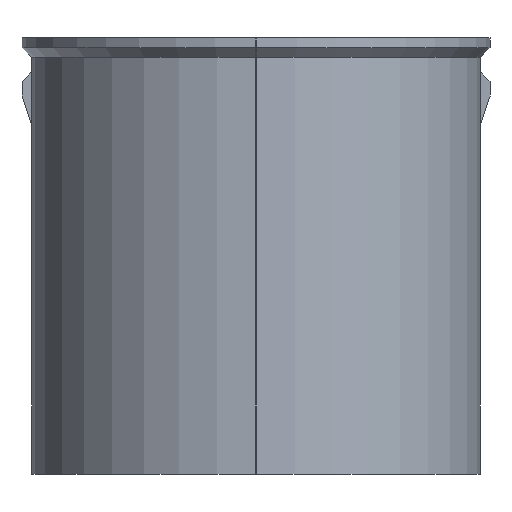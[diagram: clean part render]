
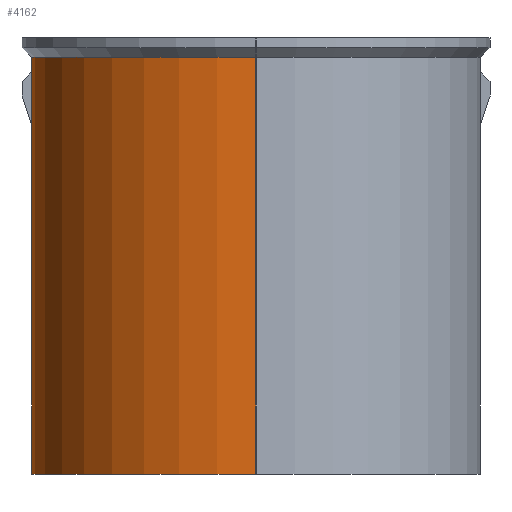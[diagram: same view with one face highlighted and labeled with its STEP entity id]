
A CAD part, left-side view. The second image highlights one B-rep face of the part: STEP entity #4162.
In plain terms, the highlighted cylindrical face has radius 23.125 mm (diameter 46.25 mm), a partial arc.
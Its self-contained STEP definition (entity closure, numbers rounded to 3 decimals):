
#622 = PLANE('',#623);
#623 = AXIS2_PLACEMENT_3D('',#624,#625,#626);
#624 = CARTESIAN_POINT('',(117.015,23.135,55.));
#625 = DIRECTION('',(0.,1.,0.));
#626 = DIRECTION('',(0.,0.,1.));
#1581 = CONICAL_SURFACE('',#1582,23.125,0.785);
#1582 = AXIS2_PLACEMENT_3D('',#1583,#1584,#1585);
#1583 = CARTESIAN_POINT('',(140.14,0.01,98.));
#1584 = DIRECTION('',(0.,0.,1.));
#1585 = DIRECTION('',(0.,-1.,0.));
#1729 = VERTEX_POINT('',#1730);
#1730 = CARTESIAN_POINT('',(140.14,23.135,98.));
#1775 = VERTEX_POINT('',#1776);
#1776 = CARTESIAN_POINT('',(140.14,23.135,55.));
#1792 = PLANE('',#1793);
#1793 = AXIS2_PLACEMENT_3D('',#1794,#1795,#1796);
#1794 = CARTESIAN_POINT('',(117.015,-23.135,55.));
#1795 = DIRECTION('',(0.,0.,1.));
#1796 = DIRECTION('',(1.,0.,0.));
#1804 = EDGE_CURVE('',#1775,#1729,#1805,.T.);
#1805 = SURFACE_CURVE('',#1806,(#1810,#1817),.PCURVE_S1.);
#1806 = LINE('',#1807,#1808);
#1807 = CARTESIAN_POINT('',(140.14,23.135,55.));
#1808 = VECTOR('',#1809,1.);
#1809 = DIRECTION('',(0.,0.,1.));
#1810 = PCURVE('',#622,#1811);
#1811 = DEFINITIONAL_REPRESENTATION('',(#1812),#1816);
#1812 = LINE('',#1813,#1814);
#1813 = CARTESIAN_POINT('',(0.,23.125));
#1814 = VECTOR('',#1815,1.);
#1815 = DIRECTION('',(1.,0.));
#1816 = ( GEOMETRIC_REPRESENTATION_CONTEXT(2) 
PARAMETRIC_REPRESENTATION_CONTEXT() REPRESENTATION_CONTEXT('2D SPACE',''
  ) );
#1817 = PCURVE('',#1818,#1823);
#1818 = CYLINDRICAL_SURFACE('',#1819,23.125);
#1819 = AXIS2_PLACEMENT_3D('',#1820,#1821,#1822);
#1820 = CARTESIAN_POINT('',(140.14,0.01,55.));
#1821 = DIRECTION('',(0.,0.,1.));
#1822 = DIRECTION('',(-1.,-0.,0.));
#1823 = DEFINITIONAL_REPRESENTATION('',(#1824),#1828);
#1824 = LINE('',#1825,#1826);
#1825 = CARTESIAN_POINT('',(-1.571,0.));
#1826 = VECTOR('',#1827,1.);
#1827 = DIRECTION('',(-0.,1.));
#1828 = ( GEOMETRIC_REPRESENTATION_CONTEXT(2) 
PARAMETRIC_REPRESENTATION_CONTEXT() REPRESENTATION_CONTEXT('2D SPACE',''
  ) );
#3710 = VERTEX_POINT('',#3711);
#3711 = CARTESIAN_POINT('',(117.015,0.01,98.));
#3725 = PLANE('',#3726);
#3726 = AXIS2_PLACEMENT_3D('',#3727,#3728,#3729);
#3727 = CARTESIAN_POINT('',(117.015,-23.135,55.));
#3728 = DIRECTION('',(1.,0.,0.));
#3729 = DIRECTION('',(0.,0.,1.));
#3777 = EDGE_CURVE('',#3710,#1729,#3778,.T.);
#3778 = SURFACE_CURVE('',#3779,(#3784,#3791),.PCURVE_S1.);
#3779 = CIRCLE('',#3780,23.125);
#3780 = AXIS2_PLACEMENT_3D('',#3781,#3782,#3783);
#3781 = CARTESIAN_POINT('',(140.14,0.01,98.));
#3782 = DIRECTION('',(-0.,-0.,-1.));
#3783 = DIRECTION('',(0.,-1.,0.));
#3784 = PCURVE('',#1581,#3785);
#3785 = DEFINITIONAL_REPRESENTATION('',(#3786),#3790);
#3786 = LINE('',#3787,#3788);
#3787 = CARTESIAN_POINT('',(6.283,0.));
#3788 = VECTOR('',#3789,1.);
#3789 = DIRECTION('',(-1.,0.));
#3790 = ( GEOMETRIC_REPRESENTATION_CONTEXT(2) 
PARAMETRIC_REPRESENTATION_CONTEXT() REPRESENTATION_CONTEXT('2D SPACE',''
  ) );
#3791 = PCURVE('',#1818,#3792);
#3792 = DEFINITIONAL_REPRESENTATION('',(#3793),#3797);
#3793 = LINE('',#3794,#3795);
#3794 = CARTESIAN_POINT('',(1.571,43.));
#3795 = VECTOR('',#3796,1.);
#3796 = DIRECTION('',(-1.,0.));
#3797 = ( GEOMETRIC_REPRESENTATION_CONTEXT(2) 
PARAMETRIC_REPRESENTATION_CONTEXT() REPRESENTATION_CONTEXT('2D SPACE',''
  ) );
#3836 = VERTEX_POINT('',#3837);
#3837 = CARTESIAN_POINT('',(117.015,0.01,55.));
#3960 = EDGE_CURVE('',#3836,#1775,#3961,.T.);
#3961 = SURFACE_CURVE('',#3962,(#3967,#3978),.PCURVE_S1.);
#3962 = CIRCLE('',#3963,23.125);
#3963 = AXIS2_PLACEMENT_3D('',#3964,#3965,#3966);
#3964 = CARTESIAN_POINT('',(140.14,0.01,55.));
#3965 = DIRECTION('',(-0.,-0.,-1.));
#3966 = DIRECTION('',(0.,-1.,0.));
#3967 = PCURVE('',#1792,#3968);
#3968 = DEFINITIONAL_REPRESENTATION('',(#3969),#3977);
#3969 = ( BOUNDED_CURVE() B_SPLINE_CURVE(2,(#3970,#3971,#3972,#3973,
#3974,#3975,#3976),.UNSPECIFIED.,.T.,.F.) B_SPLINE_CURVE_WITH_KNOTS((1,2
    ,2,2,2,1),(-2.094,0.,2.094,4.189,
6.283,8.378),.UNSPECIFIED.) CURVE() 
GEOMETRIC_REPRESENTATION_ITEM() RATIONAL_B_SPLINE_CURVE((1.,0.5,1.,0.5,
1.,0.5,1.)) REPRESENTATION_ITEM('') );
#3970 = CARTESIAN_POINT('',(23.125,0.02));
#3971 = CARTESIAN_POINT('',(-16.929,0.02));
#3972 = CARTESIAN_POINT('',(3.098,34.708));
#3973 = CARTESIAN_POINT('',(23.125,69.395));
#3974 = CARTESIAN_POINT('',(43.152,34.708));
#3975 = CARTESIAN_POINT('',(63.179,0.02));
#3976 = CARTESIAN_POINT('',(23.125,0.02));
#3977 = ( GEOMETRIC_REPRESENTATION_CONTEXT(2) 
PARAMETRIC_REPRESENTATION_CONTEXT() REPRESENTATION_CONTEXT('2D SPACE',''
  ) );
#3978 = PCURVE('',#1818,#3979);
#3979 = DEFINITIONAL_REPRESENTATION('',(#3980),#3984);
#3980 = LINE('',#3981,#3982);
#3981 = CARTESIAN_POINT('',(1.571,-0.));
#3982 = VECTOR('',#3983,1.);
#3983 = DIRECTION('',(-1.,0.));
#3984 = ( GEOMETRIC_REPRESENTATION_CONTEXT(2) 
PARAMETRIC_REPRESENTATION_CONTEXT() REPRESENTATION_CONTEXT('2D SPACE',''
  ) );
#4162 = ADVANCED_FACE('',(#4163),#1818,.T.);
#4163 = FACE_BOUND('',#4164,.F.);
#4164 = EDGE_LOOP('',(#4165,#4186,#4187,#4188));
#4165 = ORIENTED_EDGE('',*,*,#4166,.F.);
#4166 = EDGE_CURVE('',#3836,#3710,#4167,.T.);
#4167 = SURFACE_CURVE('',#4168,(#4172,#4179),.PCURVE_S1.);
#4168 = LINE('',#4169,#4170);
#4169 = CARTESIAN_POINT('',(117.015,0.01,55.));
#4170 = VECTOR('',#4171,1.);
#4171 = DIRECTION('',(0.,0.,1.));
#4172 = PCURVE('',#1818,#4173);
#4173 = DEFINITIONAL_REPRESENTATION('',(#4174),#4178);
#4174 = LINE('',#4175,#4176);
#4175 = CARTESIAN_POINT('',(-0.,0.));
#4176 = VECTOR('',#4177,1.);
#4177 = DIRECTION('',(-0.,1.));
#4178 = ( GEOMETRIC_REPRESENTATION_CONTEXT(2) 
PARAMETRIC_REPRESENTATION_CONTEXT() REPRESENTATION_CONTEXT('2D SPACE',''
  ) );
#4179 = PCURVE('',#3725,#4180);
#4180 = DEFINITIONAL_REPRESENTATION('',(#4181),#4185);
#4181 = LINE('',#4182,#4183);
#4182 = CARTESIAN_POINT('',(0.,-23.145));
#4183 = VECTOR('',#4184,1.);
#4184 = DIRECTION('',(1.,0.));
#4185 = ( GEOMETRIC_REPRESENTATION_CONTEXT(2) 
PARAMETRIC_REPRESENTATION_CONTEXT() REPRESENTATION_CONTEXT('2D SPACE',''
  ) );
#4186 = ORIENTED_EDGE('',*,*,#3960,.T.);
#4187 = ORIENTED_EDGE('',*,*,#1804,.T.);
#4188 = ORIENTED_EDGE('',*,*,#3777,.F.);
